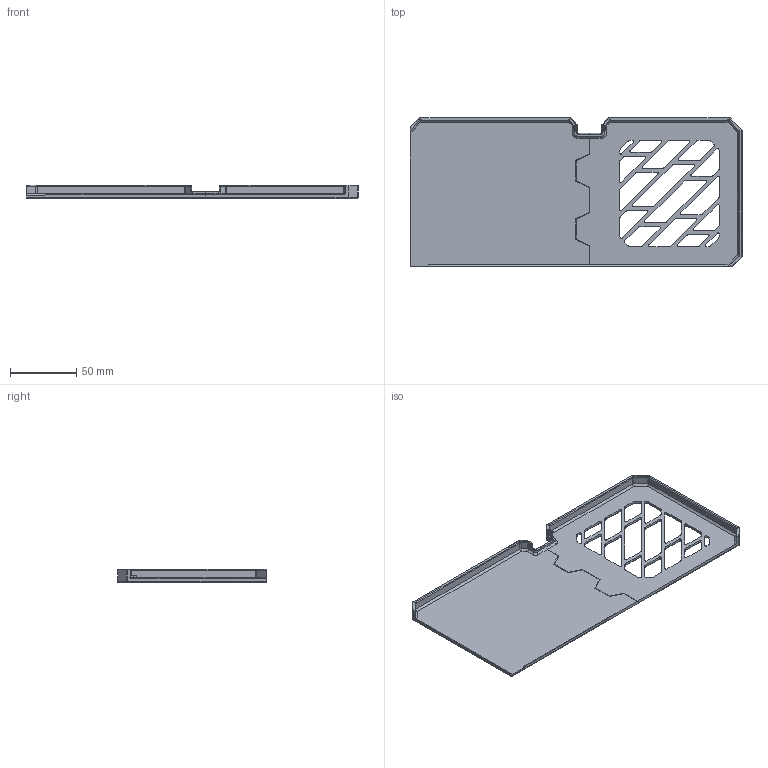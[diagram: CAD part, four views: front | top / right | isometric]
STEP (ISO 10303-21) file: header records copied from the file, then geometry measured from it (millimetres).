
FILE_DESCRIPTION((''),'2;1');
FILE_NAME('F311_MAKER_BACKPLATE_FLAT','2023-11-07T13:30:01',('Kate'),(''),'CREO PARAMETRIC BY PTC INC, 2020281','CREO PARAMETRIC BY PTC INC, 2020281','');
FILE_SCHEMA(('CONFIG_CONTROL_DESIGN'));
Length unit declared in the file: millimetre
Products named in the file (1): F311_MAKER_BACKPLATE_FLAT
Bounding box: 250.2 x 112.2 x 10 mm (x, y, z)
Volume: 52830.1 mm3; surface area: 57544.7 mm2
Topology: 2 solids, 2 shells, 507 faces, 1354 edges, 835 vertices
Faces by surface type: cylinder 224, plane 150, torus 83, bspline 22, sphere 16, extrusion 10, cone 2
Entity records: 18050 total; most frequent: CARTESIAN_POINT 5317, DIRECTION 2721, ORIENTED_EDGE 2676, EDGE_CURVE 1338, AXIS2_PLACEMENT_3D 1037, VERTEX_POINT 835, VECTOR 647, LINE 637
